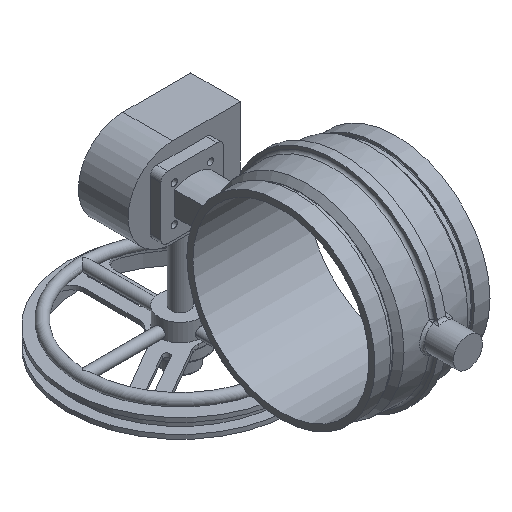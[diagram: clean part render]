
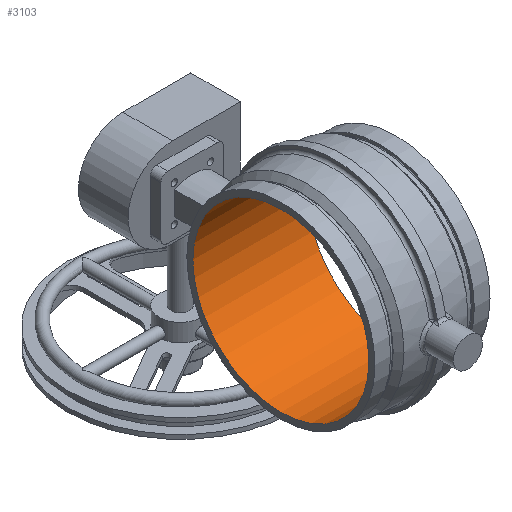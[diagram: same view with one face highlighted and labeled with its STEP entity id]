
A CAD part, isometric view. The second image highlights one B-rep face of the part: STEP entity #3103.
In plain terms, the highlighted cylindrical face has radius 213.804 mm (diameter 427.609 mm), a full revolution.
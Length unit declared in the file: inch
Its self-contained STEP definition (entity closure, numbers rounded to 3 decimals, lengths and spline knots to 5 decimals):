
#341=CIRCLE('',#3480,8.4175);
#342=CIRCLE('',#3481,8.4175);
#343=CIRCLE('',#3483,8.4175);
#344=CIRCLE('',#3484,8.4175);
#506=FACE_OUTER_BOUND('',#684,.T.);
#684=EDGE_LOOP('',(#2685,#2686,#2687,#2688,#2689,#2690));
#919=LINE('',#6244,#1069);
#1069=VECTOR('',#4361,8.4175);
#1360=VERTEX_POINT('',#6238);
#1361=VERTEX_POINT('',#6239);
#1362=VERTEX_POINT('',#6243);
#1363=VERTEX_POINT('',#6245);
#1805=EDGE_CURVE('',#1360,#1361,#341,.T.);
#1806=EDGE_CURVE('',#1361,#1360,#342,.T.);
#1807=EDGE_CURVE('',#1361,#1362,#919,.T.);
#1808=EDGE_CURVE('',#1363,#1362,#343,.T.);
#1809=EDGE_CURVE('',#1362,#1363,#344,.T.);
#2685=ORIENTED_EDGE('',*,*,#1805,.T.);
#2686=ORIENTED_EDGE('',*,*,#1807,.T.);
#2687=ORIENTED_EDGE('',*,*,#1808,.F.);
#2688=ORIENTED_EDGE('',*,*,#1809,.F.);
#2689=ORIENTED_EDGE('',*,*,#1807,.F.);
#2690=ORIENTED_EDGE('',*,*,#1806,.T.);
#2794=CYLINDRICAL_SURFACE('',#3482,8.4175);
#3103=ADVANCED_FACE('',(#506),#2794,.F.);
#3480=AXIS2_PLACEMENT_3D('',#6240,#4355,#4356);
#3481=AXIS2_PLACEMENT_3D('',#6241,#4357,#4358);
#3482=AXIS2_PLACEMENT_3D('',#6242,#4359,#4360);
#3483=AXIS2_PLACEMENT_3D('',#6246,#4362,#4363);
#3484=AXIS2_PLACEMENT_3D('',#6247,#4364,#4365);
#4355=DIRECTION('center_axis',(1.,0.,0.));
#4356=DIRECTION('ref_axis',(0.,1.,0.));
#4357=DIRECTION('center_axis',(1.,0.,0.));
#4358=DIRECTION('ref_axis',(0.,1.,0.));
#4359=DIRECTION('center_axis',(1.,0.,0.));
#4360=DIRECTION('ref_axis',(0.,1.,0.));
#4361=DIRECTION('',(-1.,0.,0.));
#4362=DIRECTION('center_axis',(1.,0.,0.));
#4363=DIRECTION('ref_axis',(0.,1.,0.));
#4364=DIRECTION('center_axis',(1.,0.,0.));
#4365=DIRECTION('ref_axis',(0.,1.,0.));
#6238=CARTESIAN_POINT('',(5.5,8.4175,0.));
#6239=CARTESIAN_POINT('',(5.5,-8.4175,0.));
#6240=CARTESIAN_POINT('Origin',(5.5,0.,0.));
#6241=CARTESIAN_POINT('Origin',(5.5,0.,0.));
#6242=CARTESIAN_POINT('Origin',(0.,0.,0.));
#6243=CARTESIAN_POINT('',(-5.5,-8.4175,0.));
#6244=CARTESIAN_POINT('',(0.,-8.4175,0.));
#6245=CARTESIAN_POINT('',(-5.5,8.4175,0.));
#6246=CARTESIAN_POINT('Origin',(-5.5,0.,0.));
#6247=CARTESIAN_POINT('Origin',(-5.5,0.,0.));
